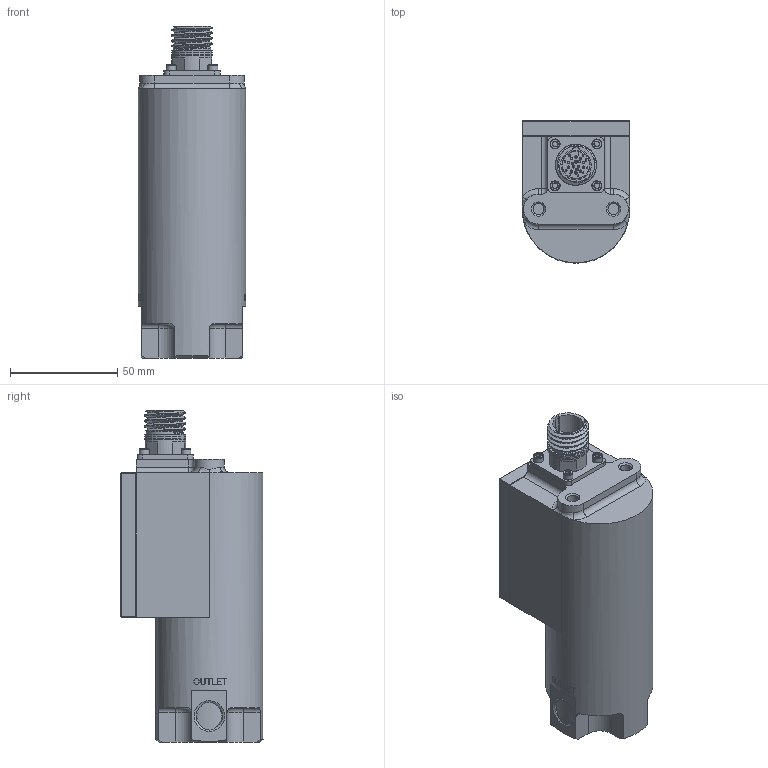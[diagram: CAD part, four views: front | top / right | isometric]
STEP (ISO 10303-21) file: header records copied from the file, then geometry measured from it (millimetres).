
FILE_DESCRIPTION (( 'STEP AP203' ), '1' );
FILE_NAME ('GPRX0501650B-MODEL.STEP', '2025-12-04T16:35:00', ( '' ), ( '' ), 'SwSTEP 2.0', 'SolidWorks 2025', '' );
FILE_SCHEMA (( 'CONFIG_CONTROL_DESIGN' ));
Products named in the file (1): GPRX0501650B-MODEL
Bounding box: 50.03 x 66.17 x 154.69 mm (x, y, z)
Volume: 321529.7 mm3; surface area: 33904.7 mm2
Topology: 1 solids, 3 shells, 1131 faces, 2914 edges, 1895 vertices
Faces by surface type: plane 616, bspline 341, cylinder 96, cone 45, torus 23, sphere 10
Full cylindrical faces by diameter (mm): 0.762 x10, 1.219 x13, 4.648 x4, 5.105 x2, 15.875 x1, 17.526 x1, 19.05 x2, 50.013 x1
Entity records: 51090 total; most frequent: CARTESIAN_POINT 26424, ORIENTED_EDGE 5668, DIRECTION 3801, EDGE_CURVE 2834, VERTEX_POINT 1884, LINE 1609, VECTOR 1609, EDGE_LOOP 1306
